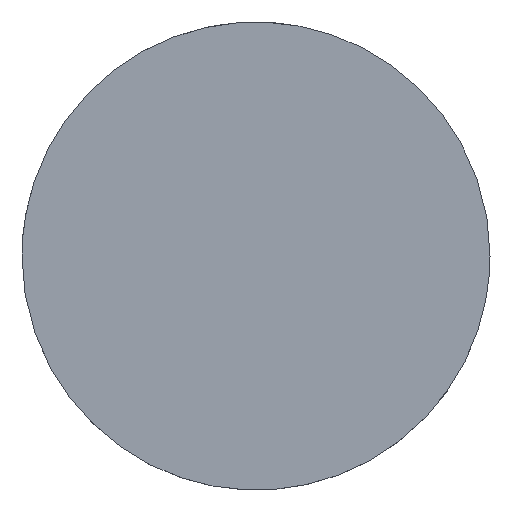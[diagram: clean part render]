
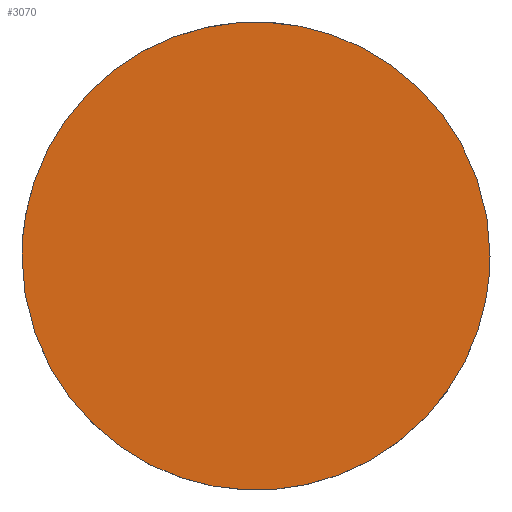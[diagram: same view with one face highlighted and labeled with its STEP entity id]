
A CAD part, top view. The second image highlights one B-rep face of the part: STEP entity #3070.
In plain terms, the highlighted planar face has unit normal (0, 0, 1).
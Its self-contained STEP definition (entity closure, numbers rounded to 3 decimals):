
#190 = CARTESIAN_POINT ('', (-37.5, 0., -36.507));
#200 = VERTEX_POINT ('', #190);
#260 = CARTESIAN_POINT ('', (37.5, 0., -36.507));
#270 = VERTEX_POINT ('', #260);
#280 = CARTESIAN_POINT ('', (37.5, 0., -36.507));
#290 = CARTESIAN_POINT ('', (37.5, 37.5, -36.507));
#300 = CARTESIAN_POINT ('', (0., 37.5, -36.507));
#310 = CARTESIAN_POINT ('', (-37.5, 37.5, -36.507));
#320 = CARTESIAN_POINT ('', (-37.5, 0., -36.507));
#330 = (
   BOUNDED_CURVE ()
   B_SPLINE_CURVE (2, (#280, #290, #300, #310, #320), .UNSPECIFIED., .F., .U.)
   B_SPLINE_CURVE_WITH_KNOTS ((3, 2, 3), (0., 1.571, 3.142), .UNSPECIFIED.)
   CURVE ()
   GEOMETRIC_REPRESENTATION_ITEM ()
   RATIONAL_B_SPLINE_CURVE ((1., 0.707, 1., 0.707, 1.))
   REPRESENTATION_ITEM ('')
);
#340 = EDGE_CURVE ('', #270, #200, #330, .T.);
#580 = CARTESIAN_POINT ('', (-37.5, 0., -36.507));
#590 = CARTESIAN_POINT ('', (-37.5, -37.5, -36.507));
#600 = CARTESIAN_POINT ('', (0., -37.5, -36.507));
#610 = CARTESIAN_POINT ('', (37.5, -37.5, -36.507));
#620 = CARTESIAN_POINT ('', (37.5, 0., -36.507));
#630 = (
   BOUNDED_CURVE ()
   B_SPLINE_CURVE (2, (#580, #590, #600, #610, #620), .UNSPECIFIED., .F., .U.)
   B_SPLINE_CURVE_WITH_KNOTS ((3, 2, 3), (3.142, 4.712, 6.283), .UNSPECIFIED.)
   CURVE ()
   GEOMETRIC_REPRESENTATION_ITEM ()
   RATIONAL_B_SPLINE_CURVE ((1., 0.707, 1., 0.707, 1.))
   REPRESENTATION_ITEM ('')
);
#640 = EDGE_CURVE ('', #200, #270, #630, .T.);
#2980 = ORIENTED_EDGE ('', *, *, #340, .T.);
#2990 = ORIENTED_EDGE ('', *, *, #640, .T.);
#3000 = EDGE_LOOP ('', (#2980, #2990));
#3010 = FACE_OUTER_BOUND ('', #3000, .T.);
#3020 = CARTESIAN_POINT ('', (0., 76.704, -36.507));
#3030 = DIRECTION ('', (0., 0., 1.));
#3040 = DIRECTION ('', (-0.707, -0.707, 0.));
#3050 = AXIS2_PLACEMENT_3D ('', #3020, #3030, #3040);
#3060 = PLANE ('', #3050);
#3070 = ADVANCED_FACE ('', (#3010), #3060, .T.);
